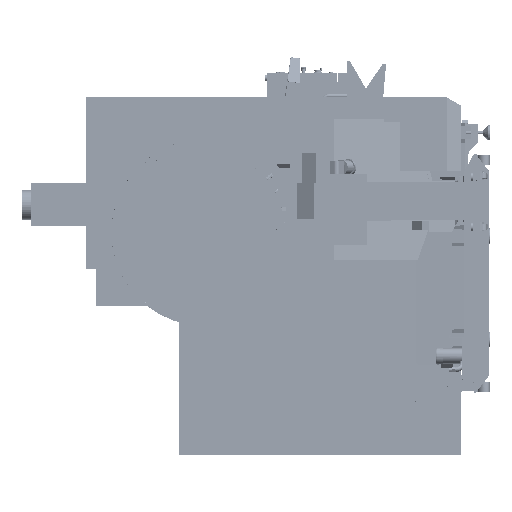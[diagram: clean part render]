
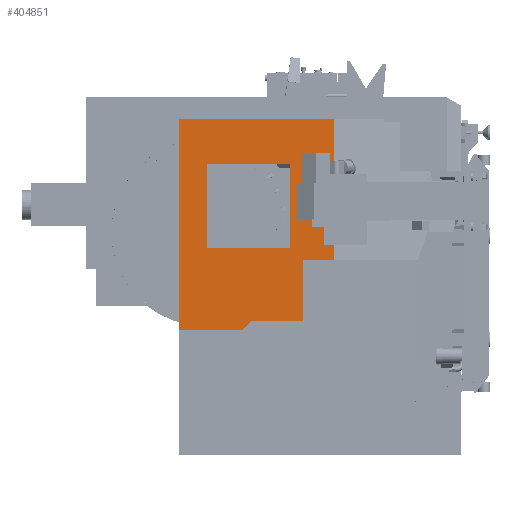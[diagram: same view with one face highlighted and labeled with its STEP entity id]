
A CAD part, left-side view. The second image highlights one B-rep face of the part: STEP entity #404851.
In plain terms, the highlighted planar face has unit normal (-1, 0, 0).
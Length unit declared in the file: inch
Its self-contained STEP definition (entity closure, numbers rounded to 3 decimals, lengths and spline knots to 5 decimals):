
#2979 = ORIENTED_EDGE ( 'NONE', *, *, #243681, .F. ) ;
#3985 = DIRECTION ( 'NONE',  ( 0., 1., 0. ) ) ;
#11234 = CARTESIAN_POINT ( 'NONE',  ( -68.39252, 15.24116, 46.27217 ) ) ;
#24403 = VERTEX_POINT ( 'NONE', #141269 ) ;
#25643 = EDGE_CURVE ( 'NONE', #440456, #275639, #520974, .T. ) ;
#33592 = DIRECTION ( 'NONE',  ( 0., 0., -1. ) ) ;
#36063 = CARTESIAN_POINT ( 'NONE',  ( -68.39252, 56.80089, 3.94017 ) ) ;
#37600 = EDGE_CURVE ( 'NONE', #159942, #277750, #260563, .T. ) ;
#38973 = CARTESIAN_POINT ( 'NONE',  ( -68.39252, 42.25903, -19.90873 ) ) ;
#41833 = FACE_OUTER_BOUND ( 'NONE', #136975, .T. ) ;
#48097 = VECTOR ( 'NONE', #564801, 39.37008 ) ;
#59281 = EDGE_CURVE ( 'NONE', #277750, #528686, #259476, .T. ) ;
#65083 = CARTESIAN_POINT ( 'NONE',  ( -68.39252, 45.33353, -22.98323 ) ) ;
#72068 = VECTOR ( 'NONE', #3985, 39.37008 ) ;
#79303 = CARTESIAN_POINT ( 'NONE',  ( -68.39252, 26.23437, 1.11177 ) ) ;
#100823 = DIRECTION ( 'NONE',  ( 0., 0., -1. ) ) ;
#105240 = CARTESIAN_POINT ( 'NONE',  ( -68.39252, 25.21437, 0.09177 ) ) ;
#108173 = LINE ( 'NONE', #65083, #546439 ) ;
#115868 = EDGE_LOOP ( 'NONE', ( #196598, #2979, #506910, #140442 ) ) ;
#121626 = DIRECTION ( 'NONE',  ( 0., 0., 1. ) ) ;
#127282 = CARTESIAN_POINT ( 'NONE',  ( -68.39252, 66.08457, 45.25217 ) ) ;
#136975 = EDGE_LOOP ( 'NONE', ( #537776, #560268, #260968, #329376, #345858, #311506, #539111, #211485 ) ) ;
#140442 = ORIENTED_EDGE ( 'NONE', *, *, #322440, .F. ) ;
#141269 = CARTESIAN_POINT ( 'NONE',  ( -68.39252, 56.80089, 3.94017 ) ) ;
#158397 = LINE ( 'NONE', #333699, #199326 ) ;
#159942 = VERTEX_POINT ( 'NONE', #11234 ) ;
#162525 = CARTESIAN_POINT ( 'NONE',  ( -68.39252, 25.21437, -19.90873 ) ) ;
#163460 = CARTESIAN_POINT ( 'NONE',  ( -68.39252, 15.24116, 0.09177 ) ) ;
#164409 = DIRECTION ( 'NONE',  ( 0., -1., 0. ) ) ;
#170040 = LINE ( 'NONE', #382758, #370507 ) ;
#171151 = DIRECTION ( 'NONE',  ( -1., 0., 0. ) ) ;
#174710 = CARTESIAN_POINT ( 'NONE',  ( -68.39252, 42.25903, -19.90873 ) ) ;
#176145 = VECTOR ( 'NONE', #100823, 39.37008 ) ;
#188988 = EDGE_CURVE ( 'NONE', #24403, #316521, #561912, .T. ) ;
#195493 = CARTESIAN_POINT ( 'NONE',  ( -68.39252, 29.58547, 31.69017 ) ) ;
#196598 = ORIENTED_EDGE ( 'NONE', *, *, #188988, .F. ) ;
#199326 = VECTOR ( 'NONE', #503274, 39.37008 ) ;
#211485 = ORIENTED_EDGE ( 'NONE', *, *, #533918, .T. ) ;
#212015 = CARTESIAN_POINT ( 'NONE',  ( -68.39252, 29.58547, 3.94017 ) ) ;
#212288 = VECTOR ( 'NONE', #216302, 39.37008 ) ;
#216302 = DIRECTION ( 'NONE',  ( 0., 1., 0. ) ) ;
#218165 = VECTOR ( 'NONE', #121626, 39.37008 ) ;
#219850 = DIRECTION ( 'NONE',  ( 0., -1., 0. ) ) ;
#243681 = EDGE_CURVE ( 'NONE', #484817, #24403, #526288, .T. ) ;
#251032 = CARTESIAN_POINT ( 'NONE',  ( -68.39252, 66.08457, 46.27217 ) ) ;
#251699 = DIRECTION ( 'NONE',  ( 0., 0., 1. ) ) ;
#254534 = CARTESIAN_POINT ( 'NONE',  ( -68.39252, 29.58547, 3.94017 ) ) ;
#259476 = LINE ( 'NONE', #434663, #212288 ) ;
#260563 = LINE ( 'NONE', #562259, #394580 ) ;
#260968 = ORIENTED_EDGE ( 'NONE', *, *, #394145, .F. ) ;
#274488 = VECTOR ( 'NONE', #219850, 39.37008 ) ;
#275639 = VERTEX_POINT ( 'NONE', #251032 ) ;
#277750 = VERTEX_POINT ( 'NONE', #163460 ) ;
#280521 = EDGE_CURVE ( 'NONE', #440456, #313318, #158397, .T. ) ;
#281181 = VERTEX_POINT ( 'NONE', #174710 ) ;
#283831 = VERTEX_POINT ( 'NONE', #378561 ) ;
#296483 = EDGE_CURVE ( 'NONE', #281181, #369926, #475788, .T. ) ;
#304571 = CARTESIAN_POINT ( 'NONE',  ( -68.39252, 45.33353, -22.98323 ) ) ;
#307267 = EDGE_CURVE ( 'NONE', #283831, #484817, #529771, .T. ) ;
#311506 = ORIENTED_EDGE ( 'NONE', *, *, #445193, .T. ) ;
#312743 = CARTESIAN_POINT ( 'NONE',  ( -68.39252, 56.80089, 31.69017 ) ) ;
#313318 = VERTEX_POINT ( 'NONE', #304571 ) ;
#316521 = VERTEX_POINT ( 'NONE', #212015 ) ;
#322440 = EDGE_CURVE ( 'NONE', #316521, #283831, #472850, .T. ) ;
#329376 = ORIENTED_EDGE ( 'NONE', *, *, #25643, .F. ) ;
#333699 = CARTESIAN_POINT ( 'NONE',  ( -68.39252, 66.08457, -22.98323 ) ) ;
#345858 = ORIENTED_EDGE ( 'NONE', *, *, #280521, .T. ) ;
#346455 = DIRECTION ( 'NONE',  ( 0., 0., 1. ) ) ;
#369926 = VERTEX_POINT ( 'NONE', #162525 ) ;
#370507 = VECTOR ( 'NONE', #164409, 39.37008 ) ;
#378561 = CARTESIAN_POINT ( 'NONE',  ( -68.39252, 29.58547, 31.69017 ) ) ;
#382758 = CARTESIAN_POINT ( 'NONE',  ( -68.39252, 15.26274, 46.27217 ) ) ;
#389522 = FACE_BOUND ( 'NONE', #115868, .T. ) ;
#394145 = EDGE_CURVE ( 'NONE', #275639, #159942, #170040, .T. ) ;
#394580 = VECTOR ( 'NONE', #33592, 39.37008 ) ;
#404851 = ADVANCED_FACE ( 'NONE', ( #41833, #389522 ), #564834, .T. ) ;
#427174 = CARTESIAN_POINT ( 'NONE',  ( -68.39252, 66.08457, -22.98323 ) ) ;
#434663 = CARTESIAN_POINT ( 'NONE',  ( -68.39252, 26.23437, 0.09177 ) ) ;
#440456 = VERTEX_POINT ( 'NONE', #427174 ) ;
#445193 = EDGE_CURVE ( 'NONE', #313318, #281181, #108173, .T. ) ;
#449960 = VECTOR ( 'NONE', #464255, 39.37008 ) ;
#464255 = DIRECTION ( 'NONE',  ( 0., 0., 1. ) ) ;
#472850 = LINE ( 'NONE', #254534, #509231 ) ;
#475788 = LINE ( 'NONE', #38973, #48097 ) ;
#479897 = AXIS2_PLACEMENT_3D ( 'NONE', #79303, #171151, #346455 ) ;
#483182 = CARTESIAN_POINT ( 'NONE',  ( -68.39252, 56.80089, 3.94017 ) ) ;
#483671 = CARTESIAN_POINT ( 'NONE',  ( -68.39252, 25.21437, 0.09177 ) ) ;
#484817 = VERTEX_POINT ( 'NONE', #312743 ) ;
#503274 = DIRECTION ( 'NONE',  ( 0., -1., 0. ) ) ;
#506910 = ORIENTED_EDGE ( 'NONE', *, *, #307267, .F. ) ;
#509231 = VECTOR ( 'NONE', #251699, 39.37008 ) ;
#520974 = LINE ( 'NONE', #127282, #218165 ) ;
#526288 = LINE ( 'NONE', #483182, #176145 ) ;
#528686 = VERTEX_POINT ( 'NONE', #483671 ) ;
#529771 = LINE ( 'NONE', #195493, #72068 ) ;
#533918 = EDGE_CURVE ( 'NONE', #369926, #528686, #553306, .T. ) ;
#537776 = ORIENTED_EDGE ( 'NONE', *, *, #59281, .F. ) ;
#539111 = ORIENTED_EDGE ( 'NONE', *, *, #296483, .T. ) ;
#539304 = DIRECTION ( 'NONE',  ( 0., -0.707, 0.707 ) ) ;
#546439 = VECTOR ( 'NONE', #539304, 39.37008 ) ;
#553306 = LINE ( 'NONE', #105240, #449960 ) ;
#560268 = ORIENTED_EDGE ( 'NONE', *, *, #37600, .F. ) ;
#561912 = LINE ( 'NONE', #36063, #274488 ) ;
#562259 = CARTESIAN_POINT ( 'NONE',  ( -68.39252, 15.24116, 1.11177 ) ) ;
#564801 = DIRECTION ( 'NONE',  ( 0., -1., 0. ) ) ;
#564834 = PLANE ( 'NONE',  #479897 ) ;
